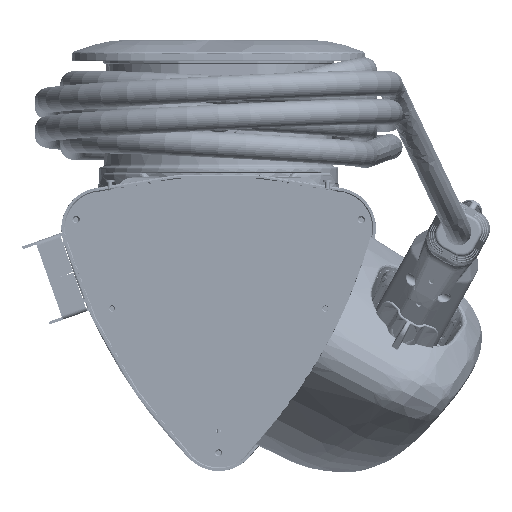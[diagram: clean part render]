
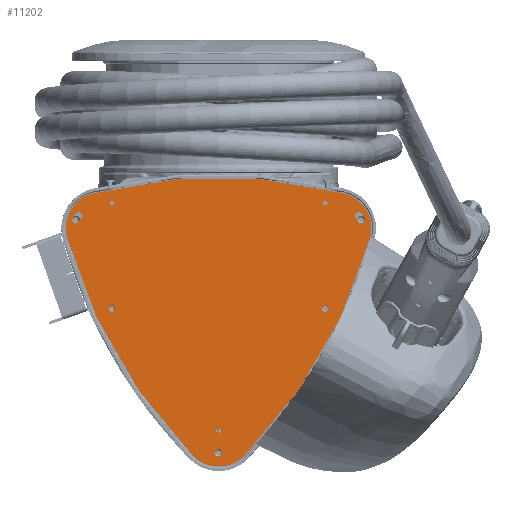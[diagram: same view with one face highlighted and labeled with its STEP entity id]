
A CAD part, front view. The second image highlights one B-rep face of the part: STEP entity #11202.
In plain terms, the highlighted planar face has unit normal (0, -1, 0).
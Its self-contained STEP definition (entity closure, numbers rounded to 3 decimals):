
#10667=CARTESIAN_POINT('',(-82.014,0.,47.351));
#10668=DIRECTION('',(0.,1.,0.));
#10669=DIRECTION('',(-0.963,0.,-0.269));
#10670=AXIS2_PLACEMENT_3D('',#10667,#10668,#10669);
#10672=CARTESIAN_POINT('',(0.,0.,-272.502));
#10673=DIRECTION('',(0.,1.,0.));
#10674=DIRECTION('',(-0.248,0.,0.969));
#10675=AXIS2_PLACEMENT_3D('',#10672,#10673,#10674);
#10677=CARTESIAN_POINT('',(82.014,0.,47.351));
#10678=DIRECTION('',(0.,1.,0.));
#10679=DIRECTION('',(0.248,0.,0.969));
#10680=AXIS2_PLACEMENT_3D('',#10677,#10678,#10679);
#10682=CARTESIAN_POINT('',(-235.993,0.,136.251));
#10683=DIRECTION('',(0.,1.,0.));
#10684=DIRECTION('',(0.963,0.,-0.269));
#10685=AXIS2_PLACEMENT_3D('',#10682,#10683,#10684);
#10687=CARTESIAN_POINT('',(0.,0.,-94.702));
#10688=DIRECTION('',(0.,1.,0.));
#10689=DIRECTION('',(0.715,0.,-0.699));
#10690=AXIS2_PLACEMENT_3D('',#10687,#10688,#10689);
#10692=CARTESIAN_POINT('',(235.993,0.,136.251));
#10693=DIRECTION('',(0.,1.,0.));
#10694=DIRECTION('',(-0.715,0.,-0.699));
#10695=AXIS2_PLACEMENT_3D('',#10692,#10693,#10694);
#10697=CARTESIAN_POINT('',(75.,0.,-9.));
#10698=DIRECTION('',(0.,1.,0.));
#10699=DIRECTION('',(1.,0.,0.));
#10700=AXIS2_PLACEMENT_3D('',#10697,#10698,#10699);
#10702=CARTESIAN_POINT('',(75.,0.,-9.));
#10703=DIRECTION('',(0.,1.,0.));
#10704=DIRECTION('',(-1.,0.,0.));
#10705=AXIS2_PLACEMENT_3D('',#10702,#10703,#10704);
#10707=CARTESIAN_POINT('',(-75.,0.,-9.));
#10708=DIRECTION('',(0.,1.,0.));
#10709=DIRECTION('',(1.,0.,0.));
#10710=AXIS2_PLACEMENT_3D('',#10707,#10708,#10709);
#10712=CARTESIAN_POINT('',(-75.,0.,-9.));
#10713=DIRECTION('',(0.,1.,0.));
#10714=DIRECTION('',(-1.,0.,0.));
#10715=AXIS2_PLACEMENT_3D('',#10712,#10713,#10714);
#10717=CARTESIAN_POINT('',(0.,0.,-95.));
#10718=DIRECTION('',(0.,1.,0.));
#10719=DIRECTION('',(1.,0.,0.));
#10720=AXIS2_PLACEMENT_3D('',#10717,#10718,#10719);
#10722=CARTESIAN_POINT('',(0.,0.,-95.));
#10723=DIRECTION('',(0.,1.,0.));
#10724=DIRECTION('',(-1.,0.,0.));
#10725=AXIS2_PLACEMENT_3D('',#10722,#10723,#10724);
#10727=CARTESIAN_POINT('',(75.,0.,65.));
#10728=DIRECTION('',(0.,1.,0.));
#10729=DIRECTION('',(1.,0.,0.));
#10730=AXIS2_PLACEMENT_3D('',#10727,#10728,#10729);
#10732=CARTESIAN_POINT('',(75.,0.,65.));
#10733=DIRECTION('',(0.,1.,0.));
#10734=DIRECTION('',(-1.,0.,0.));
#10735=AXIS2_PLACEMENT_3D('',#10732,#10733,#10734);
#10737=CARTESIAN_POINT('',(-75.,0.,65.));
#10738=DIRECTION('',(0.,1.,0.));
#10739=DIRECTION('',(1.,0.,0.));
#10740=AXIS2_PLACEMENT_3D('',#10737,#10738,#10739);
#10742=CARTESIAN_POINT('',(-75.,0.,65.));
#10743=DIRECTION('',(0.,1.,0.));
#10744=DIRECTION('',(-1.,0.,0.));
#10745=AXIS2_PLACEMENT_3D('',#10742,#10743,#10744);
#10747=CARTESIAN_POINT('',(100.35,0.,53.35));
#10748=DIRECTION('',(0.,-1.,0.));
#10749=DIRECTION('',(-0.845,0.,-0.535));
#10750=AXIS2_PLACEMENT_3D('',#10747,#10748,#10749);
#10752=DIRECTION('',(-0.535,0.,0.845));
#10753=VECTOR('',#10752,3.457);
#10754=CARTESIAN_POINT('',(102.462,0.,54.688));
#10755=LINE('',#10754,#10753);
#10756=CARTESIAN_POINT('',(98.5,0.,56.27));
#10757=DIRECTION('',(0.,-1.,0.));
#10758=DIRECTION('',(0.845,0.,0.535));
#10759=AXIS2_PLACEMENT_3D('',#10756,#10757,#10758);
#10761=DIRECTION('',(0.535,0.,-0.845));
#10762=VECTOR('',#10761,3.457);
#10763=CARTESIAN_POINT('',(96.388,0.,54.932));
#10764=LINE('',#10763,#10762);
#10765=CARTESIAN_POINT('',(-100.35,0.,53.35));
#10766=DIRECTION('',(0.,-1.,0.));
#10767=DIRECTION('',(-0.845,0.,0.535));
#10768=AXIS2_PLACEMENT_3D('',#10765,#10766,#10767);
#10770=DIRECTION('',(0.535,0.,0.845));
#10771=VECTOR('',#10770,3.457);
#10772=CARTESIAN_POINT('',(-98.238,0.,52.012));
#10773=LINE('',#10772,#10771);
#10774=CARTESIAN_POINT('',(-98.5,0.,56.27));
#10775=DIRECTION('',(0.,-1.,0.));
#10776=DIRECTION('',(0.845,0.,-0.535));
#10777=AXIS2_PLACEMENT_3D('',#10774,#10775,#10776);
#10779=DIRECTION('',(-0.535,0.,-0.845));
#10780=VECTOR('',#10779,3.457);
#10781=CARTESIAN_POINT('',(-100.612,0.,57.608));
#10782=LINE('',#10781,#10780);
#10783=CARTESIAN_POINT('',(0.,0.,-110.5));
#10784=DIRECTION('',(0.,1.,0.));
#10785=DIRECTION('',(1.,0.,0.));
#10786=AXIS2_PLACEMENT_3D('',#10783,#10784,#10785);
#10788=CARTESIAN_POINT('',(0.,0.,-110.5));
#10789=DIRECTION('',(0.,1.,0.));
#10790=DIRECTION('',(-1.,0.,0.));
#10791=AXIS2_PLACEMENT_3D('',#10788,#10789,#10790);
#11023=CARTESIAN_POINT('',(-106.476,0.,40.512));
#11024=CARTESIAN_POINT('',(-88.323,0.,71.955));
#11025=VERTEX_POINT('',#11023);
#11026=VERTEX_POINT('',#11024);
#11027=CARTESIAN_POINT('',(88.323,0.,71.955));
#11028=VERTEX_POINT('',#11027);
#11029=CARTESIAN_POINT('',(106.476,0.,40.512));
#11030=VERTEX_POINT('',#11029);
#11031=CARTESIAN_POINT('',(18.153,0.,-112.467));
#11032=VERTEX_POINT('',#11031);
#11033=CARTESIAN_POINT('',(-18.153,0.,-112.467));
#11034=VERTEX_POINT('',#11033);
#11047=CARTESIAN_POINT('',(77.2,0.,-9.));
#11048=CARTESIAN_POINT('',(72.8,0.,-9.));
#11049=VERTEX_POINT('',#11047);
#11050=VERTEX_POINT('',#11048);
#11051=CARTESIAN_POINT('',(-72.8,0.,-9.));
#11052=CARTESIAN_POINT('',(-77.2,0.,-9.));
#11053=VERTEX_POINT('',#11051);
#11054=VERTEX_POINT('',#11052);
#11063=CARTESIAN_POINT('',(1.6,0.,-95.));
#11064=CARTESIAN_POINT('',(-1.6,0.,-95.));
#11065=VERTEX_POINT('',#11063);
#11066=VERTEX_POINT('',#11064);
#11067=CARTESIAN_POINT('',(76.6,0.,65.));
#11068=CARTESIAN_POINT('',(73.4,0.,65.));
#11069=VERTEX_POINT('',#11067);
#11070=VERTEX_POINT('',#11068);
#11071=CARTESIAN_POINT('',(-73.4,0.,65.));
#11072=CARTESIAN_POINT('',(-76.6,0.,65.));
#11073=VERTEX_POINT('',#11071);
#11074=VERTEX_POINT('',#11072);
#11087=CARTESIAN_POINT('',(98.238,0.,52.012));
#11088=CARTESIAN_POINT('',(102.462,0.,54.688));
#11089=VERTEX_POINT('',#11087);
#11090=VERTEX_POINT('',#11088);
#11091=CARTESIAN_POINT('',(100.612,0.,57.608));
#11092=VERTEX_POINT('',#11091);
#11093=CARTESIAN_POINT('',(96.388,0.,54.932));
#11094=VERTEX_POINT('',#11093);
#11095=CARTESIAN_POINT('',(-102.462,0.,54.688));
#11096=CARTESIAN_POINT('',(-98.238,0.,52.012));
#11097=VERTEX_POINT('',#11095);
#11098=VERTEX_POINT('',#11096);
#11099=CARTESIAN_POINT('',(-96.388,0.,54.932));
#11100=VERTEX_POINT('',#11099);
#11101=CARTESIAN_POINT('',(-100.612,0.,57.608));
#11102=VERTEX_POINT('',#11101);
#11119=CARTESIAN_POINT('',(2.5,0.,-110.5));
#11120=CARTESIAN_POINT('',(-2.5,0.,-110.5));
#11121=VERTEX_POINT('',#11119);
#11122=VERTEX_POINT('',#11120);
#11127=CARTESIAN_POINT('',(0.,0.,0.));
#11128=DIRECTION('',(0.,1.,0.));
#11129=DIRECTION('',(1.,0.,0.));
#11130=AXIS2_PLACEMENT_3D('',#11127,#11128,#11129);
#11131=PLANE('',#11130);
#11133=ORIENTED_EDGE('',*,*,#11132,.T.);
#11135=ORIENTED_EDGE('',*,*,#11134,.T.);
#11137=ORIENTED_EDGE('',*,*,#11136,.T.);
#11139=ORIENTED_EDGE('',*,*,#11138,.T.);
#11141=ORIENTED_EDGE('',*,*,#11140,.T.);
#11143=ORIENTED_EDGE('',*,*,#11142,.T.);
#11144=EDGE_LOOP('',(#11133,#11135,#11137,#11139,#11141,#11143));
#11145=FACE_OUTER_BOUND('',#11144,.F.);
#11147=ORIENTED_EDGE('',*,*,#11146,.F.);
#11149=ORIENTED_EDGE('',*,*,#11148,.F.);
#11150=EDGE_LOOP('',(#11147,#11149));
#11151=FACE_BOUND('',#11150,.F.);
#11153=ORIENTED_EDGE('',*,*,#11152,.F.);
#11155=ORIENTED_EDGE('',*,*,#11154,.F.);
#11156=EDGE_LOOP('',(#11153,#11155));
#11157=FACE_BOUND('',#11156,.F.);
#11159=ORIENTED_EDGE('',*,*,#11158,.F.);
#11161=ORIENTED_EDGE('',*,*,#11160,.F.);
#11162=EDGE_LOOP('',(#11159,#11161));
#11163=FACE_BOUND('',#11162,.F.);
#11165=ORIENTED_EDGE('',*,*,#11164,.F.);
#11167=ORIENTED_EDGE('',*,*,#11166,.F.);
#11168=EDGE_LOOP('',(#11165,#11167));
#11169=FACE_BOUND('',#11168,.F.);
#11171=ORIENTED_EDGE('',*,*,#11170,.F.);
#11173=ORIENTED_EDGE('',*,*,#11172,.F.);
#11174=EDGE_LOOP('',(#11171,#11173));
#11175=FACE_BOUND('',#11174,.F.);
#11177=ORIENTED_EDGE('',*,*,#11176,.T.);
#11179=ORIENTED_EDGE('',*,*,#11178,.T.);
#11181=ORIENTED_EDGE('',*,*,#11180,.T.);
#11183=ORIENTED_EDGE('',*,*,#11182,.T.);
#11184=EDGE_LOOP('',(#11177,#11179,#11181,#11183));
#11185=FACE_BOUND('',#11184,.F.);
#11187=ORIENTED_EDGE('',*,*,#11186,.T.);
#11189=ORIENTED_EDGE('',*,*,#11188,.T.);
#11191=ORIENTED_EDGE('',*,*,#11190,.T.);
#11193=ORIENTED_EDGE('',*,*,#11192,.T.);
#11194=EDGE_LOOP('',(#11187,#11189,#11191,#11193));
#11195=FACE_BOUND('',#11194,.F.);
#11197=ORIENTED_EDGE('',*,*,#11196,.F.);
#11199=ORIENTED_EDGE('',*,*,#11198,.F.);
#11200=EDGE_LOOP('',(#11197,#11199));
#11201=FACE_BOUND('',#11200,.F.);
#11202=ADVANCED_FACE('',(#11145,#11151,#11157,#11163,#11169,#11175,#11185,
#11195,#11201),#11131,.F.);
#10671=CIRCLE('',#10670,25.4);
#10676=CIRCLE('',#10675,355.6);
#10681=CIRCLE('',#10680,25.4);
#10686=CIRCLE('',#10685,355.6);
#10691=CIRCLE('',#10690,25.4);
#10696=CIRCLE('',#10695,355.6);
#10701=CIRCLE('',#10700,2.2);
#10706=CIRCLE('',#10705,2.2);
#10711=CIRCLE('',#10710,2.2);
#10716=CIRCLE('',#10715,2.2);
#10721=CIRCLE('',#10720,1.6);
#10726=CIRCLE('',#10725,1.6);
#10731=CIRCLE('',#10730,1.6);
#10736=CIRCLE('',#10735,1.6);
#10741=CIRCLE('',#10740,1.6);
#10746=CIRCLE('',#10745,1.6);
#10751=CIRCLE('',#10750,2.5);
#10760=CIRCLE('',#10759,2.5);
#10769=CIRCLE('',#10768,2.5);
#10778=CIRCLE('',#10777,2.5);
#10787=CIRCLE('',#10786,2.5);
#10792=CIRCLE('',#10791,2.5);
#11132=EDGE_CURVE('',#11025,#11026,#10671,.T.);
#11134=EDGE_CURVE('',#11026,#11028,#10676,.T.);
#11136=EDGE_CURVE('',#11028,#11030,#10681,.T.);
#11138=EDGE_CURVE('',#11030,#11032,#10686,.T.);
#11140=EDGE_CURVE('',#11032,#11034,#10691,.T.);
#11142=EDGE_CURVE('',#11034,#11025,#10696,.T.);
#11146=EDGE_CURVE('',#11049,#11050,#10701,.T.);
#11148=EDGE_CURVE('',#11050,#11049,#10706,.T.);
#11152=EDGE_CURVE('',#11053,#11054,#10711,.T.);
#11154=EDGE_CURVE('',#11054,#11053,#10716,.T.);
#11158=EDGE_CURVE('',#11065,#11066,#10721,.T.);
#11160=EDGE_CURVE('',#11066,#11065,#10726,.T.);
#11164=EDGE_CURVE('',#11069,#11070,#10731,.T.);
#11166=EDGE_CURVE('',#11070,#11069,#10736,.T.);
#11170=EDGE_CURVE('',#11073,#11074,#10741,.T.);
#11172=EDGE_CURVE('',#11074,#11073,#10746,.T.);
#11176=EDGE_CURVE('',#11089,#11090,#10751,.T.);
#11178=EDGE_CURVE('',#11090,#11092,#10755,.T.);
#11180=EDGE_CURVE('',#11092,#11094,#10760,.T.);
#11182=EDGE_CURVE('',#11094,#11089,#10764,.T.);
#11186=EDGE_CURVE('',#11097,#11098,#10769,.T.);
#11188=EDGE_CURVE('',#11098,#11100,#10773,.T.);
#11190=EDGE_CURVE('',#11100,#11102,#10778,.T.);
#11192=EDGE_CURVE('',#11102,#11097,#10782,.T.);
#11196=EDGE_CURVE('',#11121,#11122,#10787,.T.);
#11198=EDGE_CURVE('',#11122,#11121,#10792,.T.);
